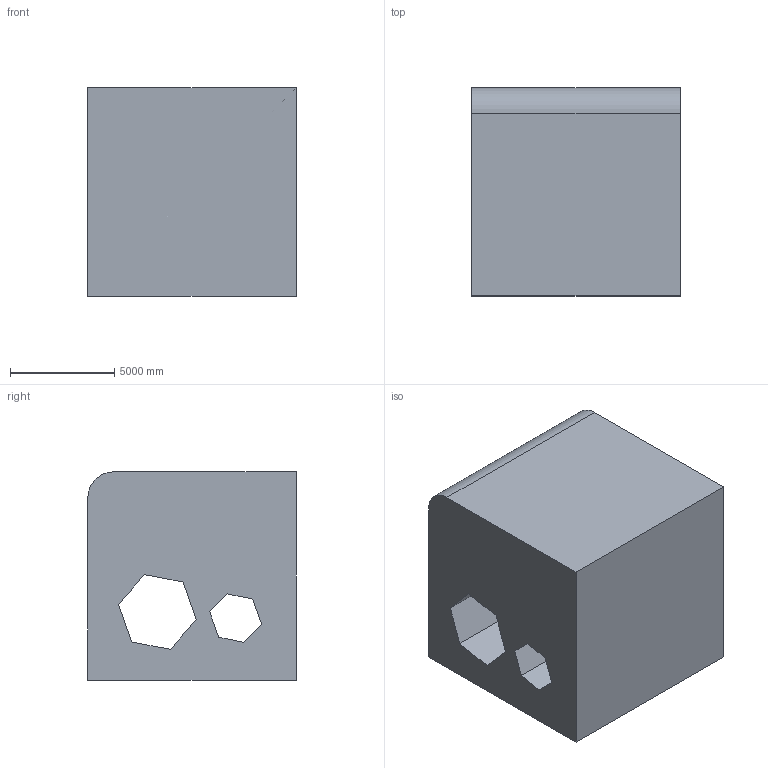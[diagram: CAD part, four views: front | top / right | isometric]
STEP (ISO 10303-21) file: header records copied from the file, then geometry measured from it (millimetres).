
FILE_DESCRIPTION (( 'STEP AP203' ), '1' );
FILE_NAME ('1273.STEP', '2022-08-18T13:30:22', ( 'user' ), ( '' ), 'SwSTEP 2.0', 'SolidWorks 2021', '' );
FILE_SCHEMA (( 'CONFIG_CONTROL_DESIGN' ));
Length unit declared in the file: centimetre
Products named in the file (1): 1273
Bounding box: 10000 x 10000 x 10000 mm (x, y, z)
Volume: 862646120144.1 mm3; surface area: 755980481.3 mm2
Topology: 1 solids, 1 shells, 19 faces, 51 edges, 34 vertices
Faces by surface type: plane 18, cylinder 1
Entity records: 672 total; most frequent: CARTESIAN_POINT 105, ORIENTED_EDGE 102, DIRECTION 93, EDGE_CURVE 51, VECTOR 49, LINE 49, VERTEX_POINT 34, EDGE_LOOP 23
